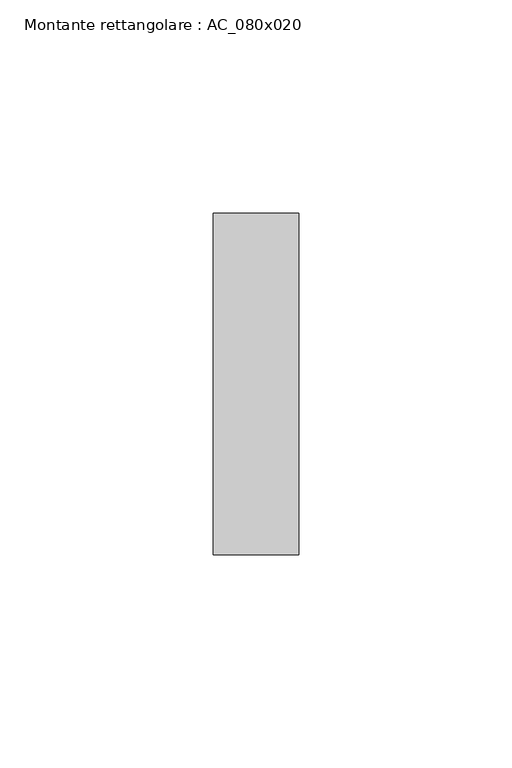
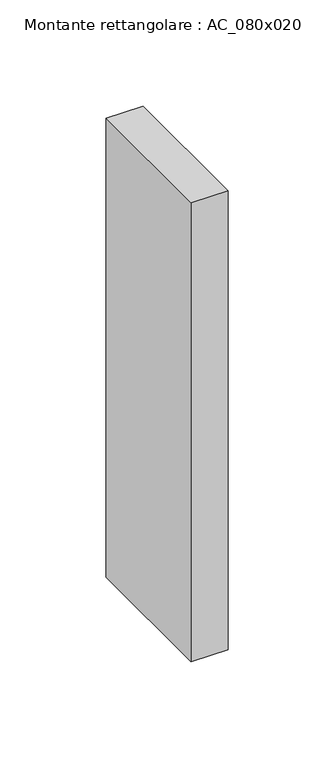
"""IFC4 building model written with IfcOpenShell, lengths in millimetres: member geometry, Montante rettangolare : AC_080x020."""

from ifc_helpers import new_model, si_unit, frame, origin, place, context, project, spatial, polyline, outline, extrude, source, transform, mapped, element, save


def montante_rettangolare_ac_080x020_566639ae(model_context):
    return source(origin(), model_context, "Body", "SweptSolid", [
        extrude(outline(polyline([(0.0, 40.0), (0.0, -40.0), (-20.0, -40.0), (-20.0, 40.0), (0.0, 40.0)])), frame((0.0, 0.0, -263.6107723), z_axis=(0.0, 0.0, 1.0), x_axis=(1.0, 0.0, 0.0)), (0.0, 0.0, 1.0), 263.6107723),
    ])


if __name__ == "__main__":
    model = new_model("IFC4")
    model_context = context("Model", 3, world=origin())
    ifc_project = project(units=[si_unit("LENGTHUNIT", "METRE", prefix="MILLI")], contexts=[model_context])
    site = spatial("IfcSite", under=ifc_project)
    building = spatial("IfcBuilding", under=site)
    placement = place(None, origin())
    montante_rettangolare_ac_080x020_shape = montante_rettangolare_ac_080x020_566639ae(model_context)
    element("IfcMember", 1, ObjectType="Montante rettangolare : AC_080x020", at=placement, inside=building, context=model_context, shape_type="MappedRepresentation", body=[
        mapped(montante_rettangolare_ac_080x020_shape, transform((0.0, 0.0, 0.0), x_axis=(1.0, 0.0, 0.0), y_axis=(0.0, 1.0, 0.0), z_axis=(0.0, 0.0, 1.0))),
    ])
    save(model, "model.ifc")
